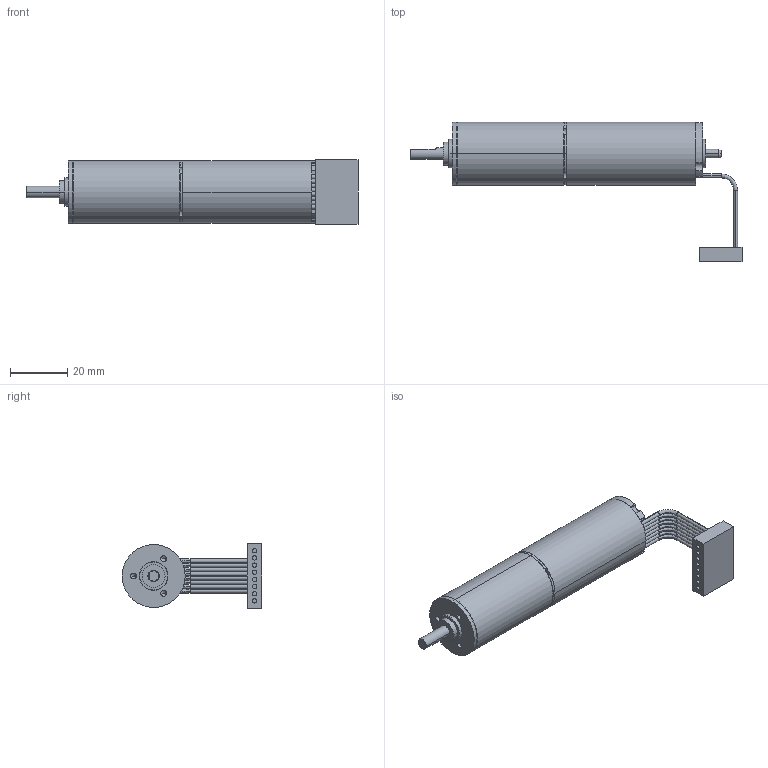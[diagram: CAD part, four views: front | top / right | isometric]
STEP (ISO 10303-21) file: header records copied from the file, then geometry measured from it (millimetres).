
FILE_DESCRIPTION (( 'STEP AP214' ), '1' );
FILE_NAME ('ECMax22L_+_GP022C 3etages.STEP', '2015-08-04T08:52:24', ( '' ), ( '' ), 'SwSTEP 2.0', 'SolidWorks 2014', '' );
FILE_SCHEMA (( 'AUTOMOTIVE_DESIGN' ));
Length unit declared in the file: millimetre
Products named in the file (3): GP022C_Etage 3; ECMax22L; ECMax22L_+_GP022C 3etages
Assembly tree (2 placements, depth 2):
  ECMax22L_+_GP022C 3etages
    ECMax22L
    GP022C_Etage 3
Bounding box: 116.1 x 48.8 x 22.4 mm (x, y, z)
Volume: 32812 mm3; surface area: 11207.2 mm2
Topology: 2 solids, 2 shells, 205 faces, 513 edges, 322 vertices
Faces by surface type: cylinder 110, cone 46, plane 33, bspline 16
Entity records: 7391 total; most frequent: CARTESIAN_POINT 1517, DIRECTION 1162, ORIENTED_EDGE 986, AXIS2_PLACEMENT_3D 495, EDGE_CURVE 493, VERTEX_POINT 322, CIRCLE 301, EDGE_LOOP 249
